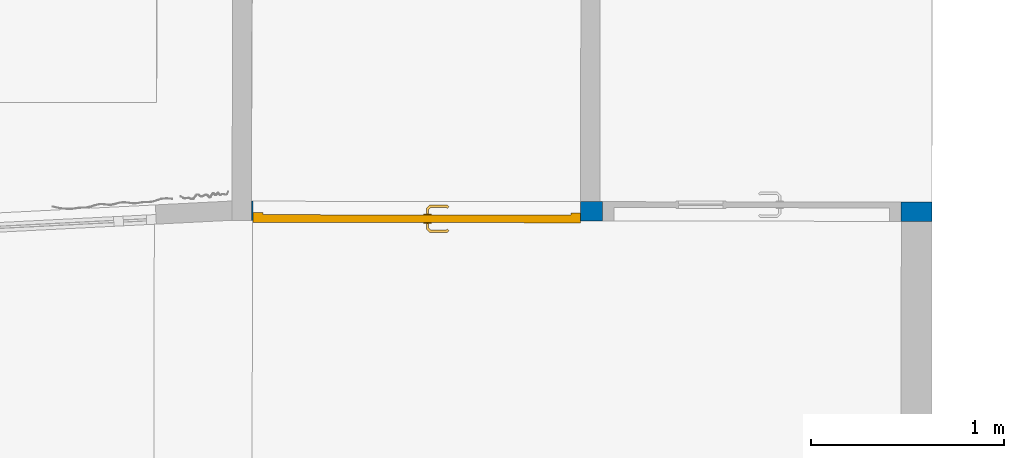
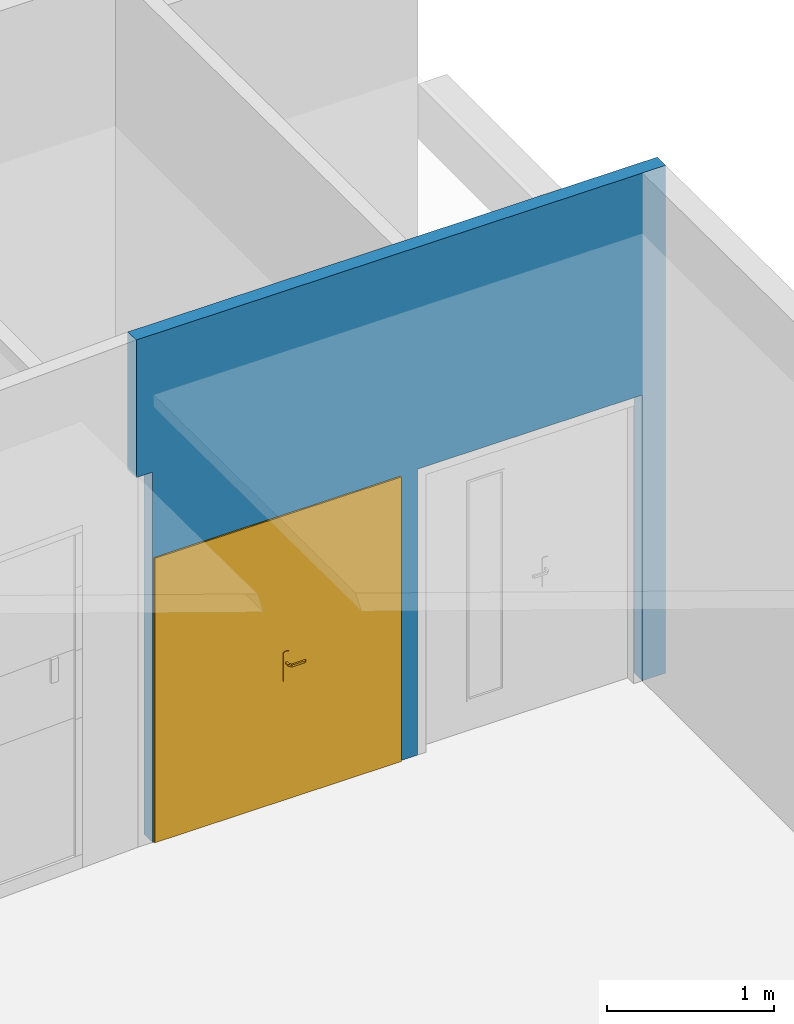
# One storey, part 21 of 43: 1 door, 1 wall, 2 openings.
"""IFC2X3 building model written with IfcOpenShell, lengths in metres."""

from ifc_helpers import new_model, entity, si_unit, converted_unit, derived_unit, direction, frame, frame_2d, origin, place, context, subcontext, project, spatial, rectangle, extrude, faceted_brep, source, transform, mapped, material, material_list, layer, layer_set, type_object, type_shapes, element, fill, save


model = new_model("IFC2X3")

# Units and contexts
model_context = context("Model", 3, precision=1e-05, world=origin(), true_north=direction((6.123233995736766e-17, 1.0)))
body_context = subcontext(model_context, "Body", "Model", "MODEL_VIEW")
ifc_project = project(units=[si_unit("LENGTHUNIT", "METRE"), si_unit("AREAUNIT", "SQUARE_METRE"), converted_unit("PLANEANGLEUNIT", "DEGREE", entity("IfcPlaneAngleMeasure", 0.017453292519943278), si_unit("PLANEANGLEUNIT", "RADIAN"), dimensions=[0, 0, 0, 0, 0, 0, 0]), derived_unit("THERMALTRANSMITTANCEUNIT", [(si_unit("MASSUNIT", "GRAM", prefix="KILO"), 1), (si_unit("THERMODYNAMICTEMPERATUREUNIT", "KELVIN"), -1), (si_unit("TIMEUNIT", "SECOND"), -3)])], contexts=[model_context])

# Site, building, storey
site_placement = place(None, frame((1253.6752467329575, 2072.143113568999, 91.49999999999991), z_axis=(0.0, 0.0, 1.0), x_axis=(0.7237211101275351, 0.6900925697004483, 0.0)))
site = spatial("IfcSite", under=ifc_project, at=site_placement, Name="Surface", CompositionType="ELEMENT")
building_placement = place(site_placement, origin())
building = spatial("IfcBuilding", under=site, at=building_placement, CompositionType="ELEMENT")
storey_placement = place(building_placement, frame((0.0, 0.0, -4.629999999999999)))
storey = spatial("IfcBuildingStorey", under=building, at=storey_placement, Name="rez de rue -1.10m", CompositionType="ELEMENT", Elevation=-4.629999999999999)

# Wall, openings, door
ifc_material_1 = material(Name="OMD_Cloison 100mm CF1h")
ifc_layer = layer(ifc_material_1, 0.1)
ifc_layer_set = layer_set([ifc_layer], Name="Mur de base:Cloison 100mm CF1h")
wall_type = type_object("IfcWallType", Name="Mur de base:Cloison 100mm CF1h", PredefinedType="STANDARD", material=ifc_layer_set)
wall_placement = place(storey_placement, frame((186.22996124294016, 3.0242761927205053, 0.0), z_axis=(0.0, 0.0, 1.0), x_axis=(0.7227070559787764, -0.6911544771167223, 0.0)))
wall = element("IfcWall", 1, at=wall_placement, inside=storey, type_object=wall_type, Name="Mur de base:Cloison 100mm CF1h", ObjectType="Mur de base:Cloison 100mm CF1h", context=body_context, shape_type="Brep", body=[
    faceted_brep([(3.6505418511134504, -0.0500000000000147, 0.0), (3.6505418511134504, -0.0500000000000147, 3.7040700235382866), (3.490551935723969, -0.05000000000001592, 3.7040700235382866), (0.002618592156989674, -0.05000000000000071, 3.7040700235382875), (0.002618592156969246, -0.050000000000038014, 2.7000000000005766), (0.014217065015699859, -0.05000000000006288, 2.7000000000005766), (0.11421712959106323, -0.05000000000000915, 2.7000000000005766), (0.11421712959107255, -0.05000000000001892, 0.0), (0.12424645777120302, -0.05000000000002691, 0.0), (0.12424645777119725, -0.050000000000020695, 2.0749999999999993), (1.8242464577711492, -0.049999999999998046, 2.0749999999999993), (1.8242464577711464, -0.04999999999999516, 0.0), (1.9392464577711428, -0.05000000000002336, 0.0), (1.939246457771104, -0.05000000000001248, 2.085), (3.4892464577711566, -0.0500000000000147, 2.085), (3.4892464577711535, -0.05000000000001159, 0.0), (3.4905519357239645, -0.05000000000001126, 0.0), (3.650551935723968, 0.04999999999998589, 3.7031798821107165), (3.6505668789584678, 0.04999999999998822, 0.0), (3.4892464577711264, 0.049999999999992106, 0.0), (3.4892464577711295, 0.049999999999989, 2.085), (1.9392464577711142, 0.04999999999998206, 2.085), (1.9392464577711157, 0.049999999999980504, 0.0), (1.9242464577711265, 0.0499999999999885, 0.0), (1.8242464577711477, 0.04999999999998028, 0.0), (1.8242464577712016, 0.04999999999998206, 2.0749999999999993), (0.12424645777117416, 0.049999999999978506, 2.0749999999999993), (0.12424645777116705, 0.049999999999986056, 0.0), (0.1143307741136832, 0.049999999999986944, 0.0), (0.11433077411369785, 0.0499999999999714, 2.7000000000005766), (0.0, 0.04999999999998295, 2.7000000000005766), (0.0, 0.04999999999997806, 3.7031798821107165), (1.824246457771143, 0.049999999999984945, 3.7031798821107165), (1.9242464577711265, 0.0499999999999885, 3.7031798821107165)], [[[0, 1, 2, 3, 4, 5, 6, 7, 8, 9, 10, 11, 12, 13, 14, 15, 16]], [[17, 18, 19, 20, 21, 22, 23, 24, 25, 26, 27, 28, 29, 30, 31, 32, 33]], [[7, 28, 27, 8]], [[0, 18, 17, 1]], [[14, 20, 19, 15]], [[20, 14, 13, 21]], [[21, 13, 12, 22]], [[3, 2, 1, 17, 33, 32, 31]], [[10, 25, 24, 11]], [[25, 10, 9, 26]], [[26, 9, 8, 27]], [[30, 29, 6, 5, 4]], [[28, 7, 6, 29]], [[3, 31, 30, 4]], [[22, 12, 11, 24, 23]], [[18, 0, 16, 15, 19]]]),
])
opening_1_placement = place(wall_placement, frame((1.8242464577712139, 0.05000000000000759, 0.0)))
opening_1 = element("IfcOpeningElement", 2, at=opening_1_placement, cuts=wall, Name="Double (T):1.63m x 2.04m:1", ObjectType="Opening", context=body_context, shape_type="SweptSolid", body=[
    extrude(rectangle(XDim=2.0749999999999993, YDim=1.699999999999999, at=frame_2d((1.0374999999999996, 0.8499999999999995), x_axis=(1.0, 0.0))), frame((0.0, 0.0, 0.0), z_axis=(0.0, -1.0, 0.0), x_axis=(0.0, 0.0, 1.0)), (0.0, 0.0, 1.0), 0.1),
])
opening_2_placement = place(wall_placement, frame((1.9392464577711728, -0.05000000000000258, 0.0)))
element("IfcOpeningElement", 3, at=opening_2_placement, cuts=wall, Name="OMD_Porte 2V tunnel:140x204 +occulus:1", ObjectType="Opening", context=body_context, shape_type="SweptSolid", body=[
    extrude(rectangle(XDim=2.085, YDim=1.5499999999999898, at=frame_2d((1.0425, 0.7749999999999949), x_axis=(1.0, 0.0))), frame((0.0, 0.0, 0.0), z_axis=(0.0, 1.0, 0.0), x_axis=(0.0, 0.0, 1.0)), (0.0, 0.0, 1.0), 0.1),
])
ifc_material_2 = material(Name="Porte - Poignée")
ifc_material_3 = material(Name="OMD_BLEU T1 23 25-SIKKKENS")
ifc_material_list = material_list([ifc_material_2, ifc_material_3])
door_style = type_object("IfcDoorStyle", Name="Double (T):1.63m x 2.04m", ConstructionType="NOTDEFINED", OperationType="DOUBLE_DOOR_SINGLE_SWING", ParameterTakesPrecedence=False, Sizeable=False, material=ifc_material_list)
shared_shape = source(origin(), body_context, "Body", "Brep", [
    faceted_brep([(0.9029747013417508, 0.035000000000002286, 1.007780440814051), (0.8989999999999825, 0.035000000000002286, 1.0069999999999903), (0.8989999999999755, 0.035000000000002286, 0.9929999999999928), (0.9029747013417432, 0.035000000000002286, 0.9922195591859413), (0.9070252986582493, 0.035000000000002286, 0.9922195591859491), (0.9110000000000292, 0.035000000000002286, 0.9930000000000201), (0.9110000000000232, 0.035000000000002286, 1.006999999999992), (0.9070252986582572, 0.035000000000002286, 1.0077804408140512), (0.9110000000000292, 0.05748520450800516, 0.9930000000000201), (0.9110000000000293, 0.057485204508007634, 1.006999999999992), (0.9070252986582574, 0.05913157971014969, 1.0077804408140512), (0.9208389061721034, 0.07294518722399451, 1.0077804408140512), (0.9191610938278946, 0.07699578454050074, 1.007780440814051), (0.9029747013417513, 0.06080939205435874, 1.007780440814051), (1.0106847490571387, 0.06646731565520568, 1.007780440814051), (1.013548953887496, 0.06933152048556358, 1.0077804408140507), (1.0058846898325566, 0.07699578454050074, 1.0077804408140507), (1.0042068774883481, 0.07294518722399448, 1.007780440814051), (0.8989999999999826, 0.06245576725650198, 1.0069999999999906), (0.8989999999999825, 0.062455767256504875, 0.9929999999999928), (0.902974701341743, 0.06080939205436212, 0.9922195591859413), (0.9191610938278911, 0.0769957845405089, 0.9922195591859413), (0.9208389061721, 0.07294518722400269, 0.9922195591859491), (0.9070252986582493, 0.059131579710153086, 0.9922195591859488), (1.0135489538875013, 0.069331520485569, 0.9922195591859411), (1.0106847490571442, 0.06646731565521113, 0.9922195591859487), (1.0042068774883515, 0.07294518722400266, 0.9922195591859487), (1.0058846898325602, 0.07699578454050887, 0.9922195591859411), (0.9224852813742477, 0.06897048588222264, 0.9930000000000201), (0.9224852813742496, 0.06897048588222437, 1.006999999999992), (0.9175147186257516, 0.08097048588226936, 1.0069999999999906), (0.9175147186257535, 0.08097048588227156, 0.9929999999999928), (0.9625228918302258, 0.06897048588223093, 0.9930000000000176), (1.0025605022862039, 0.06897048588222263, 0.9930000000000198), (1.0025605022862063, 0.06897048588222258, 1.0069999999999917), (0.9625228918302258, 0.06897048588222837, 1.006999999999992), (0.9625228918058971, 0.07512492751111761, 1.0078781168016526), (1.0075310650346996, 0.08097048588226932, 1.0069999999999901), (0.9676005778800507, 0.08097048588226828, 1.0069999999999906), (1.0075310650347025, 0.0809704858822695, 0.9929999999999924), (0.9574452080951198, 0.08097048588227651, 0.9929999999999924), (0.9625228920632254, 0.07512492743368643, 0.9921218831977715), (1.0078742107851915, 0.06365677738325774, 0.9930000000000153), (1.0163594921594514, 0.07214205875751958, 0.9929999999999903), (1.0163594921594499, 0.07214205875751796, 1.006999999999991), (1.0078742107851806, 0.06365677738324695, 1.00699999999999)], [[[0, 1, 2, 3, 4, 5, 6, 7]], [[6, 5, 8, 9]], [[9, 10, 7, 6]], [[10, 11, 12, 13, 0, 7]], [[14, 15, 16, 17]], [[13, 18, 1, 0]], [[2, 1, 18, 19]], [[19, 20, 3, 2]], [[20, 21, 22, 23, 4, 3]], [[24, 25, 26, 27]], [[23, 8, 5, 4]], [[9, 8, 28, 29]], [[29, 11, 10, 9]], [[12, 30, 18, 13]], [[19, 18, 30, 31]], [[31, 21, 20, 19]], [[22, 28, 8, 23]], [[29, 28, 32, 33, 34, 35]], [[11, 35, 36]], [[16, 37, 38]], [[30, 12, 38]], [[38, 12, 36]], [[36, 35, 17]], [[17, 16, 36]], [[35, 11, 29]], [[34, 17, 35]], [[11, 36, 12]], [[38, 36, 16]], [[31, 30, 38, 37, 39, 40]], [[40, 41, 21]], [[41, 40, 27]], [[21, 31, 40]], [[39, 27, 40]], [[41, 32, 22]], [[22, 21, 41]], [[26, 32, 41]], [[28, 22, 32]], [[32, 26, 33]], [[26, 41, 27]], [[42, 25, 24, 43, 44, 15, 14, 45]], [[34, 33, 42, 45]], [[45, 14, 17, 34]], [[15, 44, 37, 16]], [[39, 37, 44, 43]], [[43, 24, 27, 39]], [[25, 42, 33, 26]]]),
    faceted_brep([(0.9029747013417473, -0.014999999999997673, 1.0077804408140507), (0.9070252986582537, -0.014999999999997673, 1.0077804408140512), (0.9110000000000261, -0.014999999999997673, 1.0069999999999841), (0.9110000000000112, -0.014999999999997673, 0.9930000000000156), (0.9070252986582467, -0.014999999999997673, 0.9922195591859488), (0.9029747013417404, -0.014999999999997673, 0.9922195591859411), (0.8989999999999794, -0.014999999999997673, 0.9929999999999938), (0.8989999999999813, -0.014999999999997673, 1.006999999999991), (0.8989999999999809, -0.04265095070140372, 1.006999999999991), (0.9029747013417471, -0.04100457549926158, 1.0077804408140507), (0.9190235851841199, -0.057053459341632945, 1.0077804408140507), (0.9207013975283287, -0.053002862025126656, 1.0077804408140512), (0.9070252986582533, -0.0393267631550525, 1.0077804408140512), (1.0135218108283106, -0.049389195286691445, 1.0077804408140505), (1.0106576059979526, -0.046524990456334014, 1.007780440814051), (1.0041797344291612, -0.053002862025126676, 1.007780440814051), (1.0058575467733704, -0.05705345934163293, 1.0077804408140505), (0.9110000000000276, -0.037680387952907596, 1.0069999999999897), (0.9110000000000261, -0.03768038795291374, 0.9930000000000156), (0.9070252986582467, -0.0393267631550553, 0.9922195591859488), (0.9207013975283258, -0.05300286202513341, 0.9922195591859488), (0.919023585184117, -0.05705345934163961, 0.9922195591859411), (0.9029747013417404, -0.04100457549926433, 0.9922195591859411), (1.0106576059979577, -0.046524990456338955, 0.9922195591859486), (1.0135218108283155, -0.04938919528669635, 0.9922195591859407), (1.005857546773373, -0.05705345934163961, 0.9922195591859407), (1.004179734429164, -0.05300286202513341, 0.9922195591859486), (0.8989999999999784, -0.04265095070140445, 0.9929999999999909), (0.9173772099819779, -0.06102816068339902, 1.006999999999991), (0.9223477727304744, -0.0490281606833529, 1.0069999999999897), (0.9223477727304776, -0.049028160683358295, 0.9930000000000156), (0.9173772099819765, -0.0610281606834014, 0.9929999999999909), (0.957307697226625, -0.061028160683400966, 1.0069999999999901), (0.9624405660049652, -0.05518280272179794, 1.0078781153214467), (1.0075039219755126, -0.06102816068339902, 1.0069999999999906), (0.9624405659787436, -0.04902816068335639, 1.0069999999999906), (1.0025333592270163, -0.049028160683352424, 1.0069999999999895), (1.0025333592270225, -0.049028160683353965, 0.9930000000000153), (0.9624405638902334, -0.0490281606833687, 0.9930000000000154), (0.9624405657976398, -0.05518280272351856, 0.9921218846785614), (1.0075039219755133, -0.06102816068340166, 0.9929999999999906), (0.9675734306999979, -0.061028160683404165, 0.9929999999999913), (1.0078470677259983, -0.04371445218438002, 1.0069999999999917), (1.0163323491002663, -0.052199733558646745, 1.0069999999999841), (1.0163323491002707, -0.052199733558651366, 0.9929999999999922), (1.0078470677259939, -0.043714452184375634, 0.9930000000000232)], [[[0, 1, 2, 3, 4, 5, 6, 7]], [[8, 9, 0, 7]], [[9, 10, 11, 12, 1, 0]], [[13, 14, 15, 16]], [[12, 17, 2, 1]], [[3, 2, 17, 18]], [[18, 19, 4, 3]], [[19, 20, 21, 22, 5, 4]], [[23, 24, 25, 26]], [[22, 27, 6, 5]], [[7, 6, 27, 8]], [[28, 10, 9, 8]], [[11, 29, 17, 12]], [[18, 17, 29, 30]], [[30, 20, 19, 18]], [[21, 31, 27, 22]], [[8, 27, 31, 28]], [[32, 33, 10]], [[33, 32, 16]], [[10, 28, 32]], [[34, 16, 32]], [[33, 35, 11]], [[11, 10, 33]], [[15, 35, 33]], [[29, 11, 35]], [[35, 15, 36]], [[15, 33, 16]], [[30, 29, 35, 36, 37, 38]], [[20, 38, 39]], [[25, 40, 41]], [[31, 21, 41]], [[41, 21, 39]], [[39, 38, 26]], [[26, 25, 39]], [[38, 20, 30]], [[37, 26, 38]], [[20, 39, 21]], [[41, 39, 25]], [[28, 31, 41, 40, 34, 32]], [[42, 14, 13, 43, 44, 24, 23, 45]], [[43, 13, 16, 34]], [[14, 42, 36, 15]], [[37, 36, 42, 45]], [[45, 23, 26, 37]], [[24, 44, 40, 25]], [[34, 40, 44, 43]]]),
    faceted_brep([(0.9153527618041, 0.03000000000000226, 0.8660039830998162), (0.9249999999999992, 0.03000000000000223, 0.8700000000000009), (0.924999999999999, 0.03000000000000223, 1.0800000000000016), (0.9153527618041, 0.03000000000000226, 1.0839960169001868), (0.9049999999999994, 0.030000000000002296, 1.0853589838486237), (0.8946472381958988, 0.030000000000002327, 1.0839960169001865), (0.8849999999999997, 0.030000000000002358, 1.0800000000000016), (0.8849999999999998, 0.030000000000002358, 0.8700000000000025), (0.8946472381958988, 0.030000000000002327, 0.866003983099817), (0.9049999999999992, 0.030000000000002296, 0.8646410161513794), (0.9153527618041, 0.035000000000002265, 1.0839960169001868), (0.9249999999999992, 0.03500000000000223, 1.0800000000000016), (0.9249999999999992, 0.03500000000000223, 0.8700000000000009), (0.9153527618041, 0.035000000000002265, 0.8660039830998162), (0.9049999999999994, 0.0350000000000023, 0.8646410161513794), (0.8946472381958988, 0.03500000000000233, 0.866003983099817), (0.8849999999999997, 0.03500000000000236, 0.8700000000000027), (0.8849999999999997, 0.03500000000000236, 1.0800000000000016), (0.8946472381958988, 0.03500000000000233, 1.0839960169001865), (0.9049999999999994, 0.0350000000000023, 1.0853589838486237)], [[[0, 1, 2, 3, 4, 5, 6, 7, 8, 9]], [[10, 11, 12, 13, 14, 15, 16, 17, 18, 19]], [[11, 10, 3, 2]], [[3, 10, 19, 4]], [[19, 18, 5, 4]], [[18, 17, 6, 5]], [[7, 6, 17, 16]], [[16, 15, 8, 7]], [[8, 15, 14, 9]], [[14, 13, 0, 9]], [[13, 12, 1, 0]], [[2, 1, 12, 11]]]),
    faceted_brep([(0.9153527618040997, -0.014999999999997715, 0.8660039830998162), (0.924999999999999, -0.01499999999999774, 0.8700000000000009), (0.9249999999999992, -0.01499999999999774, 1.0800000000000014), (0.9153527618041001, -0.014999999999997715, 1.0839960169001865), (0.9049999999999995, -0.014999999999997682, 1.0853589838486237), (0.8946472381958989, -0.014999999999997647, 1.0839960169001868), (0.8849999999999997, -0.014999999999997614, 1.0800000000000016), (0.8849999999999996, -0.014999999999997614, 0.8700000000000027), (0.8946472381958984, -0.014999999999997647, 0.8660039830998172), (0.904999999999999, -0.014999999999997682, 0.8646410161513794), (0.9153527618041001, -0.009999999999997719, 1.0839960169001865), (0.924999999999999, -0.009999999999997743, 1.0800000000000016), (0.924999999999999, -0.009999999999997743, 0.8700000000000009), (0.9153527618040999, -0.009999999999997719, 0.8660039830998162), (0.904999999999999, -0.009999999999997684, 0.8646410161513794), (0.8946472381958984, -0.009999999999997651, 0.8660039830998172), (0.8849999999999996, -0.009999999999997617, 0.8700000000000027), (0.8849999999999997, -0.009999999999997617, 1.0800000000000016), (0.8946472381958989, -0.009999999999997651, 1.0839960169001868), (0.9049999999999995, -0.009999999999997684, 1.0853589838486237)], [[[0, 1, 2, 3, 4, 5, 6, 7, 8, 9]], [[10, 11, 12, 13, 14, 15, 16, 17, 18, 19]], [[16, 15, 8, 7]], [[8, 15, 14, 9]], [[14, 13, 0, 9]], [[13, 12, 1, 0]], [[2, 1, 12, 11]], [[11, 10, 3, 2]], [[3, 10, 19, 4]], [[19, 18, 5, 4]], [[18, 17, 6, 5]], [[7, 6, 17, 16]]]),
    faceted_brep([(0.0, 0.04000000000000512, 0.0), (0.0499999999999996, 0.04000000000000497, 0.0), (0.0499999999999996, 0.030000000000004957, 0.0), (0.03500000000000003, 0.03000000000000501, 0.0), (0.03499999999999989, -0.009999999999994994, 0.0), (0.0, -0.009999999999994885, 0.0), (0.0, 0.04000000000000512, 2.0749999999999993), (1.699999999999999, 0.039999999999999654, 2.074999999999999), (1.6999999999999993, 0.03999999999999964, 0.0), (1.65, 0.03999999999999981, 0.0), (1.6500000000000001, 0.03999999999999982, 2.025), (0.0499999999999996, 0.04000000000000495, 2.0249999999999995), (0.0499999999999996, 0.030000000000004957, 2.0249999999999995), (1.6499999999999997, 0.029999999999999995, 2.025), (1.65, 0.029999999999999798, 0.0), (1.6649999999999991, 0.029999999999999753, 0.0), (1.6649999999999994, 0.029999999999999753, 2.039999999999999), (0.03500000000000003, 0.03000000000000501, 2.039999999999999), (0.03499999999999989, -0.009999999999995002, 2.039999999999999), (1.664999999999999, -0.010000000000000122, 2.0399999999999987), (1.664999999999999, -0.010000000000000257, 0.0), (1.6999999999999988, -0.010000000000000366, 0.0), (1.699999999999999, -0.010000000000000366, 2.0749999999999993), (0.0, -0.009999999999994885, 2.0749999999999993)], [[[0, 1, 2, 3, 4, 5]], [[1, 0, 6, 7, 8, 9, 10, 11]], [[2, 1, 11, 12]], [[3, 2, 12, 13, 14, 15, 16, 17]], [[4, 3, 17, 18]], [[5, 4, 18, 19, 20, 21, 22, 23]], [[0, 5, 23, 6]], [[7, 22, 21, 8]], [[8, 21, 20, 15, 14, 9]], [[13, 10, 9, 14]], [[19, 16, 15, 20]], [[12, 11, 10, 13]], [[18, 17, 16, 19]], [[6, 23, 22, 7]]]),
    faceted_brep([(1.664999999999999, -0.010000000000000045, 0.0), (1.664999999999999, -0.010000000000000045, 2.039999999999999), (0.8499999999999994, -0.009999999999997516, 2.039999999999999), (0.8499999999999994, -0.009999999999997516, 0.0), (1.664999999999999, 0.029999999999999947, 0.0), (0.8499999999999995, 0.030000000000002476, 0.0), (0.8499999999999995, 0.030000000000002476, 2.039999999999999), (1.664999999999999, 0.029999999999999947, 2.039999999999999)], [[[0, 1, 2, 3]], [[4, 5, 6, 7]], [[1, 0, 4, 7]], [[2, 1, 7, 6]], [[3, 2, 6, 5]], [[0, 3, 5, 4]]]),
    faceted_brep([(0.03499999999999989, -0.009999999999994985, 2.039999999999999), (0.03499999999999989, -0.009999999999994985, 0.0), (0.8499999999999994, -0.009999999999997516, 0.0), (0.8499999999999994, -0.009999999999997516, 2.039999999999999), (0.03500000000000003, 0.030000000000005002, 2.039999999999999), (0.8499999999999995, 0.030000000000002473, 2.039999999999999), (0.8499999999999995, 0.030000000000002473, 0.0), (0.03500000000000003, 0.030000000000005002, 0.0)], [[[0, 1, 2, 3]], [[4, 5, 6, 7]], [[1, 0, 4, 7]], [[2, 1, 7, 6]], [[3, 2, 6, 5]], [[0, 3, 5, 4]]]),
])
type_shapes(door_style, [shared_shape])
door_placement = place(opening_1_placement, frame((-1.70000000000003, -0.09999999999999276, 0.0)))
door = element("IfcDoor", 4, at=door_placement, inside=storey, type_object=door_style, material=ifc_material_list, Name="Double (T):1.63m x 2.04m", ObjectType="Double (T):1.63m x 2.04m", OverallHeight=2.0749999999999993, OverallWidth=1.7000000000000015, context=body_context, shape_type="MappedRepresentation", body=[
    mapped(shared_shape, transform((0.0, 0.0, 0.0), scale=1.0)),
])
fill(opening_1, door)

save(model, "model.ifc")
